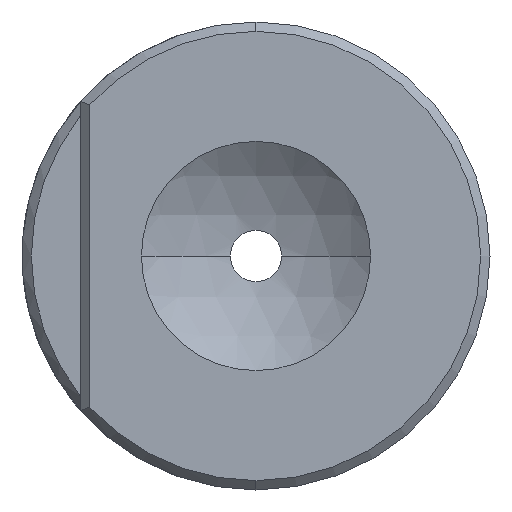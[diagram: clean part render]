
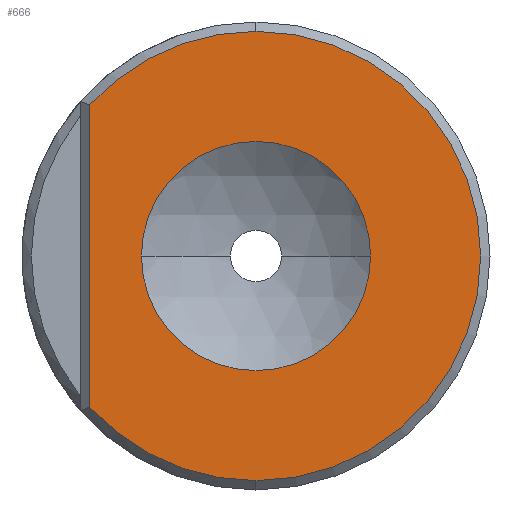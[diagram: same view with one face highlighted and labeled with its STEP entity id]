
A CAD part, left-side view. The second image highlights one B-rep face of the part: STEP entity #666.
In plain terms, the highlighted planar face has unit normal (-1, 0, 0).
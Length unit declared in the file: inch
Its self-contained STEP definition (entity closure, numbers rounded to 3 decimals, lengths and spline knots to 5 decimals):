
#2 = ORIENTED_EDGE ( 'NONE', *, *, #646, .T. ) ;
#19 = VERTEX_POINT ( 'NONE', #352 ) ;
#29 = ORIENTED_EDGE ( 'NONE', *, *, #73, .T. ) ;
#31 = AXIS2_PLACEMENT_3D ( 'NONE', #186, #191, #362 ) ;
#33 = CARTESIAN_POINT ( 'NONE',  ( -1.65625, -0.48977, 0. ) ) ;
#53 = CARTESIAN_POINT ( 'NONE',  ( -1.65625, 0.71, 0.64614 ) ) ;
#61 = CARTESIAN_POINT ( 'NONE',  ( -1.65625, 0., 0. ) ) ;
#66 = EDGE_LOOP ( 'NONE', ( #29, #340, #297, #104 ) ) ;
#68 = CARTESIAN_POINT ( 'NONE',  ( -1.65625, 0., 0. ) ) ;
#73 = EDGE_CURVE ( 'NONE', #19, #263, #386, .T. ) ;
#77 = CARTESIAN_POINT ( 'NONE',  ( -1.65625, 0.71, 0. ) ) ;
#104 = ORIENTED_EDGE ( 'NONE', *, *, #328, .T. ) ;
#107 = AXIS2_PLACEMENT_3D ( 'NONE', #529, #210, #154 ) ;
#110 = CIRCLE ( 'NONE', #272, 0.96 ) ;
#116 = CARTESIAN_POINT ( 'NONE',  ( -1.65625, 0., 0. ) ) ;
#142 = CARTESIAN_POINT ( 'NONE',  ( -1.65625, 0.48977, 0. ) ) ;
#154 = DIRECTION ( 'NONE',  ( 0., 1., 0. ) ) ;
#156 = VERTEX_POINT ( 'NONE', #33 ) ;
#184 = CARTESIAN_POINT ( 'NONE',  ( -1.65625, 0., 0. ) ) ;
#185 = FACE_OUTER_BOUND ( 'NONE', #66, .T. ) ;
#186 = CARTESIAN_POINT ( 'NONE',  ( -1.65625, 0., 0. ) ) ;
#191 = DIRECTION ( 'NONE',  ( -1., 0., 0. ) ) ;
#198 = VERTEX_POINT ( 'NONE', #142 ) ;
#210 = DIRECTION ( 'NONE',  ( 1., 0., 0. ) ) ;
#229 = DIRECTION ( 'NONE',  ( -1., 0., 0. ) ) ;
#232 = DIRECTION ( 'NONE',  ( 0., 0., -1. ) ) ;
#242 = AXIS2_PLACEMENT_3D ( 'NONE', #184, #401, #346 ) ;
#243 = CARTESIAN_POINT ( 'NONE',  ( -1.65625, 0., 0.96 ) ) ;
#263 = VERTEX_POINT ( 'NONE', #295 ) ;
#270 = VERTEX_POINT ( 'NONE', #243 ) ;
#272 = AXIS2_PLACEMENT_3D ( 'NONE', #68, #229, #232 ) ;
#281 = PLANE ( 'NONE',  #242 ) ;
#295 = CARTESIAN_POINT ( 'NONE',  ( -1.65625, 0., -0.96 ) ) ;
#297 = ORIENTED_EDGE ( 'NONE', *, *, #585, .T. ) ;
#328 = EDGE_CURVE ( 'NONE', #475, #19, #441, .T. ) ;
#337 = VECTOR ( 'NONE', #512, 39.37008 ) ;
#340 = ORIENTED_EDGE ( 'NONE', *, *, #635, .T. ) ;
#344 = DIRECTION ( 'NONE',  ( 0., 0., -1. ) ) ;
#346 = DIRECTION ( 'NONE',  ( 0., 0., -1. ) ) ;
#352 = CARTESIAN_POINT ( 'NONE',  ( -1.65625, 0.71, -0.64614 ) ) ;
#362 = DIRECTION ( 'NONE',  ( 0., 0., -1. ) ) ;
#369 = AXIS2_PLACEMENT_3D ( 'NONE', #61, #493, #549 ) ;
#386 = CIRCLE ( 'NONE', #31, 0.96 ) ;
#397 = CIRCLE ( 'NONE', #369, 0.48977 ) ;
#399 = EDGE_CURVE ( 'NONE', #198, #156, #691, .T. ) ;
#401 = DIRECTION ( 'NONE',  ( 1., 0., 0. ) ) ;
#441 = LINE ( 'NONE', #77, #337 ) ;
#452 = ORIENTED_EDGE ( 'NONE', *, *, #399, .T. ) ;
#475 = VERTEX_POINT ( 'NONE', #53 ) ;
#493 = DIRECTION ( 'NONE',  ( 1., 0., 0. ) ) ;
#512 = DIRECTION ( 'NONE',  ( 0., 0., -1. ) ) ;
#529 = CARTESIAN_POINT ( 'NONE',  ( -1.65625, 0., 0. ) ) ;
#532 = EDGE_LOOP ( 'NONE', ( #452, #2 ) ) ;
#549 = DIRECTION ( 'NONE',  ( 0., 1., 0. ) ) ;
#585 = EDGE_CURVE ( 'NONE', #270, #475, #110, .T. ) ;
#586 = FACE_BOUND ( 'NONE', #532, .T. ) ;
#602 = CIRCLE ( 'NONE', #672, 0.96 ) ;
#635 = EDGE_CURVE ( 'NONE', #263, #270, #602, .T. ) ;
#645 = DIRECTION ( 'NONE',  ( -1., 0., 0. ) ) ;
#646 = EDGE_CURVE ( 'NONE', #156, #198, #397, .T. ) ;
#666 = ADVANCED_FACE ( 'NONE', ( #185, #586 ), #281, .F. ) ;
#672 = AXIS2_PLACEMENT_3D ( 'NONE', #116, #645, #344 ) ;
#691 = CIRCLE ( 'NONE', #107, 0.48977 ) ;
